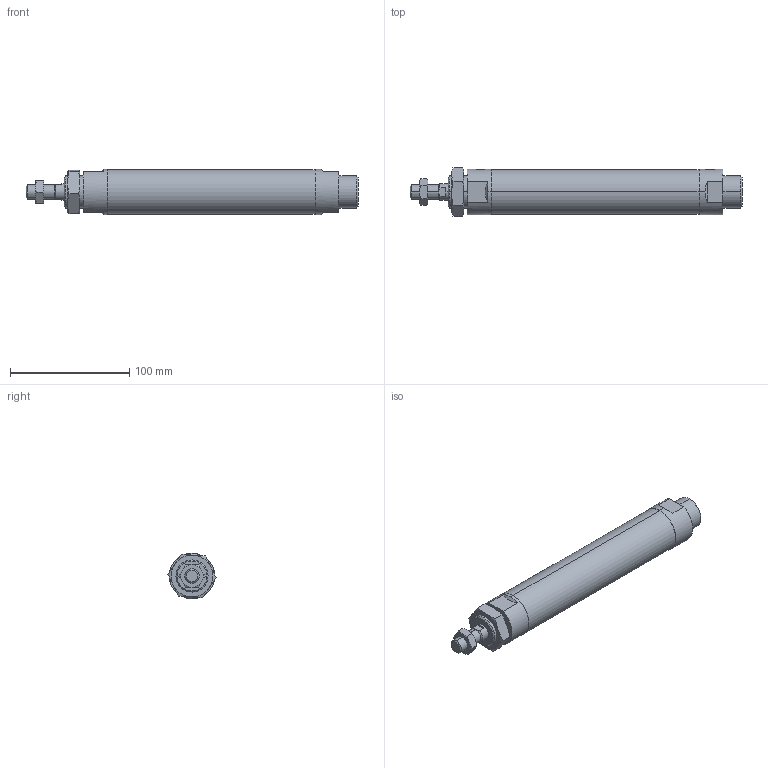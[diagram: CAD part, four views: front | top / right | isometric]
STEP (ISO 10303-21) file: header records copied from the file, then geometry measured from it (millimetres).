
FILE_DESCRIPTION (( 'STEP AP203' ), '1' );
FILE_NAME ('J#2-32-125-N.STEP', '2016-03-08T07:39:38', ( '' ), ( '' ), 'SwSTEP 2.0', 'SolidWorks 2014', '' );
FILE_SCHEMA (( 'CONFIG_CONTROL_DESIGN' ));
Length unit declared in the file: millimetre
Products named in the file (4): J#2-32-125-N; J#2-32-125
Assembly tree (3 placements, depth 2):
  J#2-32-125-N
    J#2-32-125
    (unnamed)
    (unnamed)
Bounding box: 278 x 40.33 x 38 mm (x, y, z)
Volume: 263696.4 mm3; surface area: 36787.7 mm2
Topology: 3 solids, 3 shells, 94 faces, 210 edges, 125 vertices
Faces by surface type: plane 33, torus 24, cylinder 22, cone 15
Entity records: 3451 total; most frequent: CARTESIAN_POINT 1038, DIRECTION 421, ORIENTED_EDGE 412, EDGE_CURVE 206, AXIS2_PLACEMENT_3D 178, VERTEX_POINT 125, EDGE_LOOP 105, ADVANCED_FACE 94
